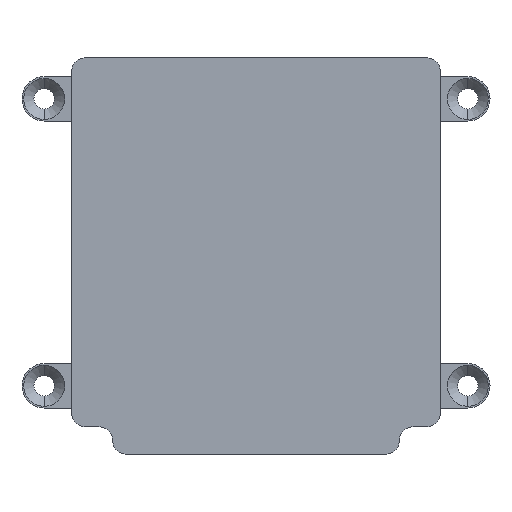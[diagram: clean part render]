
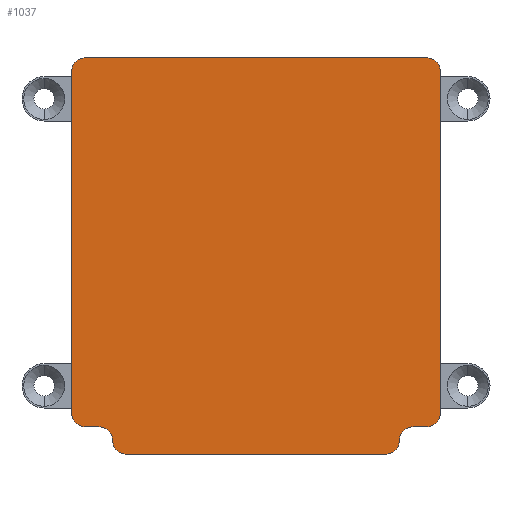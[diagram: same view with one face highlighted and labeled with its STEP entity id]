
A CAD part, front view. The second image highlights one B-rep face of the part: STEP entity #1037.
In plain terms, the highlighted planar face has unit normal (0, -1, 0).
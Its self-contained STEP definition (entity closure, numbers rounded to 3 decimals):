
#9 = CARTESIAN_POINT ( 'NONE',  ( 46., 0., -56. ) ) ;
#20 = VERTEX_POINT ( 'NONE', #550 ) ;
#29 = DIRECTION ( 'NONE',  ( 0., -1., 0. ) ) ;
#41 = ORIENTED_EDGE ( 'NONE', *, *, #1050, .T. ) ;
#61 = DIRECTION ( 'NONE',  ( 0., 0., -1. ) ) ;
#84 = EDGE_CURVE ( 'NONE', #559, #1284, #689, .T. ) ;
#113 = VERTEX_POINT ( 'NONE', #444 ) ;
#131 = VECTOR ( 'NONE', #505, 1000. ) ;
#165 = CARTESIAN_POINT ( 'NONE',  ( 0., 0., 0. ) ) ;
#193 = ORIENTED_EDGE ( 'NONE', *, *, #1423, .T. ) ;
#199 = VECTOR ( 'NONE', #422, 1000. ) ;
#211 = CIRCLE ( 'NONE', #1161, 2. ) ;
#224 = CARTESIAN_POINT ( 'NONE',  ( 52., 0., 0. ) ) ;
#256 = DIRECTION ( 'NONE',  ( -1., 0., 0. ) ) ;
#261 = VECTOR ( 'NONE', #61, 1000. ) ;
#274 = AXIS2_PLACEMENT_3D ( 'NONE', #1638, #29, #886 ) ;
#296 = ORIENTED_EDGE ( 'NONE', *, *, #1580, .F. ) ;
#342 = VERTEX_POINT ( 'NONE', #1722 ) ;
#343 = CARTESIAN_POINT ( 'NONE',  ( 0., 0., -54. ) ) ;
#358 = CARTESIAN_POINT ( 'NONE',  ( 48., 0., -56. ) ) ;
#370 = EDGE_CURVE ( 'NONE', #476, #1284, #920, .T. ) ;
#384 = EDGE_CURVE ( 'NONE', #113, #679, #802, .T. ) ;
#389 = CIRCLE ( 'NONE', #1877, 2. ) ;
#398 = EDGE_CURVE ( 'NONE', #1662, #476, #389, .T. ) ;
#422 = DIRECTION ( 'NONE',  ( -1., 0., 0. ) ) ;
#430 = EDGE_CURVE ( 'NONE', #342, #1030, #1615, .T. ) ;
#444 = CARTESIAN_POINT ( 'NONE',  ( 54., 0., -2. ) ) ;
#451 = DIRECTION ( 'NONE',  ( 0., -1., 0. ) ) ;
#461 = VERTEX_POINT ( 'NONE', #691 ) ;
#467 = CIRCLE ( 'NONE', #682, 2. ) ;
#473 = ORIENTED_EDGE ( 'NONE', *, *, #370, .T. ) ;
#476 = VERTEX_POINT ( 'NONE', #982 ) ;
#498 = CARTESIAN_POINT ( 'NONE',  ( 46., 0., -58. ) ) ;
#505 = DIRECTION ( 'NONE',  ( 1., 0., 0. ) ) ;
#522 = VERTEX_POINT ( 'NONE', #358 ) ;
#538 = LINE ( 'NONE', #1413, #131 ) ;
#540 = ORIENTED_EDGE ( 'NONE', *, *, #84, .F. ) ;
#542 = VECTOR ( 'NONE', #1096, 1000. ) ;
#550 = CARTESIAN_POINT ( 'NONE',  ( 0., 0., -2. ) ) ;
#559 = VERTEX_POINT ( 'NONE', #498 ) ;
#579 = CARTESIAN_POINT ( 'NONE',  ( 6., 0., -58. ) ) ;
#594 = DIRECTION ( 'NONE',  ( -1., 0., 0. ) ) ;
#615 = ORIENTED_EDGE ( 'NONE', *, *, #1463, .F. ) ;
#647 = DIRECTION ( 'NONE',  ( 0., 0., -1. ) ) ;
#651 = AXIS2_PLACEMENT_3D ( 'NONE', #165, #1950, #1191 ) ;
#679 = VERTEX_POINT ( 'NONE', #1286 ) ;
#682 = AXIS2_PLACEMENT_3D ( 'NONE', #761, #1045, #1626 ) ;
#686 = VECTOR ( 'NONE', #594, 1000. ) ;
#689 = LINE ( 'NONE', #579, #1241 ) ;
#691 = CARTESIAN_POINT ( 'NONE',  ( 0., 0., -52. ) ) ;
#723 = AXIS2_PLACEMENT_3D ( 'NONE', #1008, #1609, #1773 ) ;
#761 = CARTESIAN_POINT ( 'NONE',  ( 2., 0., -2. ) ) ;
#783 = CARTESIAN_POINT ( 'NONE',  ( 8., 0., -56. ) ) ;
#794 = LINE ( 'NONE', #1528, #542 ) ;
#802 = LINE ( 'NONE', #1411, #261 ) ;
#886 = DIRECTION ( 'NONE',  ( 0., 0., -1. ) ) ;
#920 = CIRCLE ( 'NONE', #1718, 2. ) ;
#933 = AXIS2_PLACEMENT_3D ( 'NONE', #1824, #1558, #1565 ) ;
#939 = CIRCLE ( 'NONE', #1700, 2. ) ;
#982 = CARTESIAN_POINT ( 'NONE',  ( 6., 0., -56. ) ) ;
#1008 = CARTESIAN_POINT ( 'NONE',  ( 50., 0., -56. ) ) ;
#1030 = VERTEX_POINT ( 'NONE', #1337 ) ;
#1037 = ADVANCED_FACE ( 'NONE', ( #1798 ), #1492, .T. ) ;
#1045 = DIRECTION ( 'NONE',  ( 0., -1., 0. ) ) ;
#1050 = EDGE_CURVE ( 'NONE', #1347, #20, #467, .T. ) ;
#1077 = ORIENTED_EDGE ( 'NONE', *, *, #398, .T. ) ;
#1084 = DIRECTION ( 'NONE',  ( 0., 0., -1. ) ) ;
#1090 = CARTESIAN_POINT ( 'NONE',  ( 2., 0., -54. ) ) ;
#1096 = DIRECTION ( 'NONE',  ( 0., 0., 1. ) ) ;
#1135 = EDGE_CURVE ( 'NONE', #113, #1246, #1694, .T. ) ;
#1141 = ORIENTED_EDGE ( 'NONE', *, *, #1817, .T. ) ;
#1161 = AXIS2_PLACEMENT_3D ( 'NONE', #9, #451, #1084 ) ;
#1164 = DIRECTION ( 'NONE',  ( 0., 0., -1. ) ) ;
#1191 = DIRECTION ( 'NONE',  ( 0., 0., -1. ) ) ;
#1210 = VERTEX_POINT ( 'NONE', #1090 ) ;
#1240 = CIRCLE ( 'NONE', #723, 2. ) ;
#1241 = VECTOR ( 'NONE', #256, 1000. ) ;
#1246 = VERTEX_POINT ( 'NONE', #224 ) ;
#1271 = CARTESIAN_POINT ( 'NONE',  ( 4., 0., -56. ) ) ;
#1280 = DIRECTION ( 'NONE',  ( 0., -1., 0. ) ) ;
#1284 = VERTEX_POINT ( 'NONE', #1340 ) ;
#1286 = CARTESIAN_POINT ( 'NONE',  ( 54., 0., -52. ) ) ;
#1289 = EDGE_CURVE ( 'NONE', #342, #679, #1793, .T. ) ;
#1290 = DIRECTION ( 'NONE',  ( 0., 0., -1. ) ) ;
#1303 = ORIENTED_EDGE ( 'NONE', *, *, #1898, .T. ) ;
#1308 = CARTESIAN_POINT ( 'NONE',  ( 54., 0., -54. ) ) ;
#1337 = CARTESIAN_POINT ( 'NONE',  ( 50., 0., -54. ) ) ;
#1340 = CARTESIAN_POINT ( 'NONE',  ( 8., 0., -58. ) ) ;
#1347 = VERTEX_POINT ( 'NONE', #1375 ) ;
#1375 = CARTESIAN_POINT ( 'NONE',  ( 2., 0., 0. ) ) ;
#1411 = CARTESIAN_POINT ( 'NONE',  ( 54., 0., -54. ) ) ;
#1413 = CARTESIAN_POINT ( 'NONE',  ( 0., 0., 0. ) ) ;
#1423 = EDGE_CURVE ( 'NONE', #522, #1030, #1240, .T. ) ;
#1428 = CARTESIAN_POINT ( 'NONE',  ( 2., 0., -52. ) ) ;
#1440 = DIRECTION ( 'NONE',  ( 0., -1., 0. ) ) ;
#1463 = EDGE_CURVE ( 'NONE', #461, #20, #794, .T. ) ;
#1467 = ORIENTED_EDGE ( 'NONE', *, *, #384, .F. ) ;
#1477 = ORIENTED_EDGE ( 'NONE', *, *, #1135, .T. ) ;
#1492 = PLANE ( 'NONE',  #651 ) ;
#1528 = CARTESIAN_POINT ( 'NONE',  ( 0., 0., -54. ) ) ;
#1542 = EDGE_LOOP ( 'NONE', ( #1907, #1077, #473, #540, #1141, #193, #1741, #1744, #1467, #1477, #296, #41, #615, #1303 ) ) ;
#1558 = DIRECTION ( 'NONE',  ( 0., -1., 0. ) ) ;
#1565 = DIRECTION ( 'NONE',  ( 0., 0., -1. ) ) ;
#1580 = EDGE_CURVE ( 'NONE', #1347, #1246, #538, .T. ) ;
#1609 = DIRECTION ( 'NONE',  ( 0., 1., 0. ) ) ;
#1615 = LINE ( 'NONE', #1308, #199 ) ;
#1626 = DIRECTION ( 'NONE',  ( 0., 0., -1. ) ) ;
#1638 = CARTESIAN_POINT ( 'NONE',  ( 52., 0., -2. ) ) ;
#1662 = VERTEX_POINT ( 'NONE', #1797 ) ;
#1694 = CIRCLE ( 'NONE', #274, 2. ) ;
#1700 = AXIS2_PLACEMENT_3D ( 'NONE', #1428, #1440, #1290 ) ;
#1718 = AXIS2_PLACEMENT_3D ( 'NONE', #783, #1280, #647 ) ;
#1722 = CARTESIAN_POINT ( 'NONE',  ( 52., 0., -54. ) ) ;
#1741 = ORIENTED_EDGE ( 'NONE', *, *, #430, .F. ) ;
#1744 = ORIENTED_EDGE ( 'NONE', *, *, #1289, .T. ) ;
#1757 = DIRECTION ( 'NONE',  ( 0., 1., 0. ) ) ;
#1773 = DIRECTION ( 'NONE',  ( 0., 0., -1. ) ) ;
#1793 = CIRCLE ( 'NONE', #933, 2. ) ;
#1797 = CARTESIAN_POINT ( 'NONE',  ( 4., 0., -54. ) ) ;
#1798 = FACE_OUTER_BOUND ( 'NONE', #1542, .T. ) ;
#1817 = EDGE_CURVE ( 'NONE', #559, #522, #211, .T. ) ;
#1824 = CARTESIAN_POINT ( 'NONE',  ( 52., 0., -52. ) ) ;
#1852 = LINE ( 'NONE', #343, #686 ) ;
#1877 = AXIS2_PLACEMENT_3D ( 'NONE', #1271, #1757, #1164 ) ;
#1886 = EDGE_CURVE ( 'NONE', #1662, #1210, #1852, .T. ) ;
#1898 = EDGE_CURVE ( 'NONE', #461, #1210, #939, .T. ) ;
#1907 = ORIENTED_EDGE ( 'NONE', *, *, #1886, .F. ) ;
#1950 = DIRECTION ( 'NONE',  ( 0., -1., 0. ) ) ;
